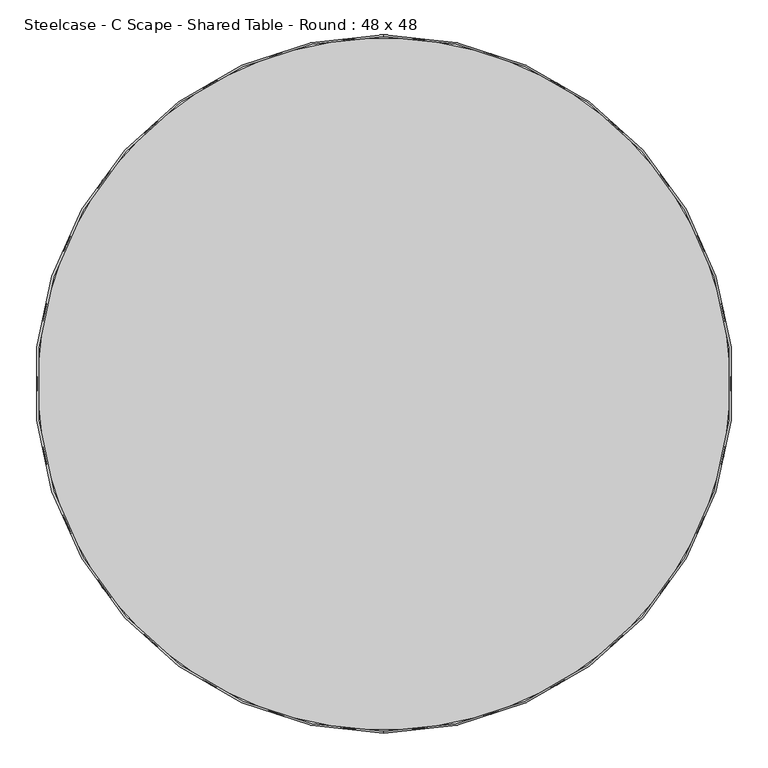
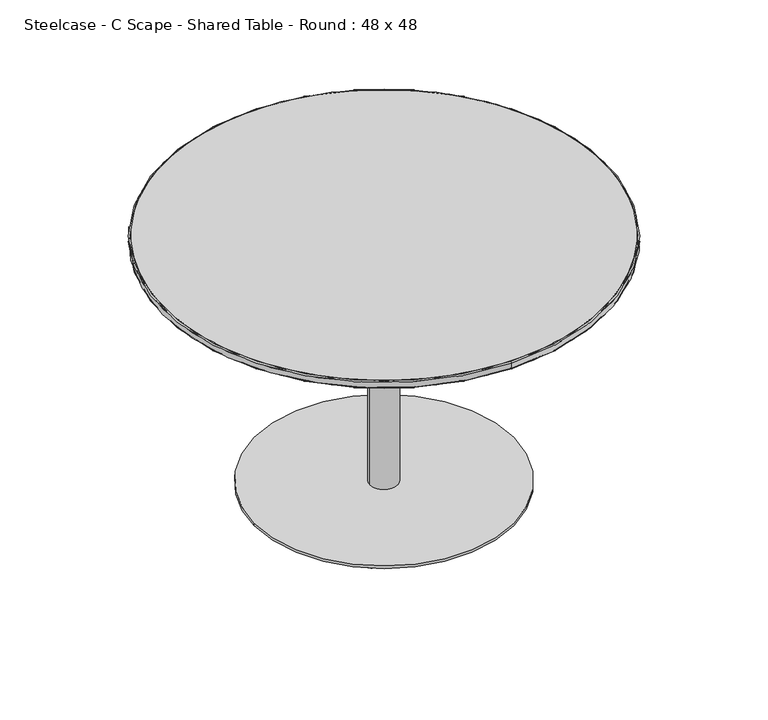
"""IFC4 building model written with IfcOpenShell, lengths in millimetres: furniture geometry, Steelcase - C Scape - Shared Table - Round : 48 x 48."""

from ifc_helpers import new_model, si_unit, point, frame, frame_2d, origin, origin_with_axes, place, context, project, spatial, polyline, circle_curve, ellipse_curve, trimmed, segment, composite_curve, outline, extrude, source, transform, mapped, element, save
from ifc_brep_helpers import plane_surface, cylinder_surface, revolved_surface, advanced_brep


def steelcase_c_scape_shared_table_round_48_x_48_2e53c025(model_context):
    return source(origin(), model_context, "Body", "SolidModel", [
        extrude(outline(composite_curve([segment(trimmed(circle_curve(frame_2d((614.3169393, -282.5887078)), 19.05), [point((595.2669393, -282.5887078))], [point((633.3669393, -282.5887078))], False, "CARTESIAN"), True, "CONTINUOUS"), segment(trimmed(circle_curve(frame_2d((614.3169393, -282.5887078)), 19.05), [point((633.3669393, -282.5887078))], [point((595.2669393, -282.5887078))], False, "CARTESIAN"), True, "CONTINUOUS")], self_intersect=False)), origin_with_axes(), (0.0, 0.0, 1.0), 4.7752),
        extrude(outline(composite_curve([segment(trimmed(circle_curve(frame_2d((925.7274141, -508.1223889)), 19.05), [point((906.6774141, -508.1223889))], [point((944.7774141, -508.1223889))], False, "CARTESIAN"), True, "CONTINUOUS"), segment(trimmed(circle_curve(frame_2d((925.7274141, -508.1223889)), 19.05), [point((944.7774141, -508.1223889))], [point((906.6774141, -508.1223889))], False, "CARTESIAN"), True, "CONTINUOUS")], self_intersect=False)), origin_with_axes(), (0.0, 0.0, 1.0), 4.7752),
        extrude(outline(composite_curve([segment(trimmed(circle_curve(frame_2d((293.4725859, -508.1223889)), 19.05), [point((274.4225859, -508.1223889))], [point((312.5225859, -508.1223889))], False, "CARTESIAN"), True, "CONTINUOUS"), segment(trimmed(circle_curve(frame_2d((293.4725859, -508.1223889)), 19.05), [point((312.5225859, -508.1223889))], [point((274.4225859, -508.1223889))], False, "CARTESIAN"), True, "CONTINUOUS")], self_intersect=False)), origin_with_axes(), (0.0, 0.0, 1.0), 4.7752),
        extrude(outline(composite_curve([segment(trimmed(circle_curve(frame_2d((419.5814105, -877.5440092)), 19.05), [point((400.5314105, -877.5440092))], [point((438.6314105, -877.5440092))], False, "CARTESIAN"), True, "CONTINUOUS"), segment(trimmed(circle_curve(frame_2d((419.5814105, -877.5440092)), 19.05), [point((438.6314105, -877.5440092))], [point((400.5314105, -877.5440092))], False, "CARTESIAN"), True, "CONTINUOUS")], self_intersect=False)), origin_with_axes(), (0.0, 0.0, 1.0), 4.7752),
        extrude(outline(composite_curve([segment(trimmed(circle_curve(frame_2d((799.6185895, -877.5440092)), 19.05), [point((780.5685895, -877.5440092))], [point((818.6685895, -877.5440092))], False, "CARTESIAN"), True, "CONTINUOUS"), segment(trimmed(circle_curve(frame_2d((799.6185895, -877.5440092)), 19.05), [point((818.6685895, -877.5440092))], [point((780.5685895, -877.5440092))], False, "CARTESIAN"), True, "CONTINUOUS")], self_intersect=False)), origin_with_axes(), (0.0, 0.0, 1.0), 4.7752),
        extrude(outline(polyline([(519.4461817, -703.2451349), (519.4461817, -525.4450865), (697.2460848, -525.4450865), (697.2460848, -703.2451349), (519.4461817, -703.2451349)])), frame((0.0, 0.0, 686.0031853), z_axis=(0.0, 0.0, 1.0), x_axis=(1.0, 0.0, 0.0)), (0.0, 0.0, 1.0), 9.4488147),
        extrude(outline(composite_curve([segment(trimmed(circle_curve(frame_2d((608.80625, -609.6)), 38.1), [point((570.70625, -609.6))], [point((646.90625, -609.6))], False, "CARTESIAN"), True, "CONTINUOUS"), segment(trimmed(circle_curve(frame_2d((608.80625, -609.6)), 38.1), [point((646.90625, -609.6))], [point((570.70625, -609.6))], False, "CARTESIAN"), True, "CONTINUOUS")], self_intersect=False)), frame((0.0, 0.0, 12.7), z_axis=(0.0, 0.0, 1.0), x_axis=(1.0, 0.0, 0.0)), (0.0, 0.0, 1.0), 673.3031853),
        extrude(outline(composite_curve([segment(trimmed(circle_curve(frame_2d((609.6, -609.6)), 355.6), [point((254.0, -609.6))], [point((965.2, -609.6))], False, "CARTESIAN"), True, "CONTINUOUS"), segment(trimmed(circle_curve(frame_2d((609.6, -609.6)), 355.6), [point((965.2, -609.6))], [point((254.0, -609.6))], False, "CARTESIAN"), True, "CONTINUOUS")], self_intersect=False)), frame((0.0, 0.0, 4.7752), z_axis=(0.0, 0.0, 1.0), x_axis=(1.0, 0.0, 0.0)), (0.0, 0.0, 1.0), 7.9248),
        advanced_brep(
        [(609.6, -2.0827992, 705.9399771), (609.6, -1217.1172008, 705.9399771), (609.6, -1214.12, 703.453), (609.6, -5.08, 703.453), (609.6, -2.0827992, 720.9027992), (609.6, -1217.1172008, 720.9027992), (609.6, -5.08, 723.9), (609.6, -1214.12, 723.9)],
        [
            (0, 1, circle_curve(frame((609.6, -609.6, 705.9399771), z_axis=(0.0, 0.0, -1.0), x_axis=(0.0, -1.0, 0.0)), 607.5172008)),
            (1, 2, circle_curve(frame((609.6, -1214.5867951, 705.9399771), z_axis=(1.0, 0.0, 0.0), x_axis=(0.0, 1.0, 0.0)), 2.5304056)),
            (2, 3, circle_curve(frame((609.6, -609.6, 703.453), z_axis=(0.0, 0.0, 1.0), x_axis=(0.0, -1.0, 0.0)), 604.52)),
            (3, 0, circle_curve(frame((609.6, -4.6132049, 705.9399771), z_axis=(1.0, 0.0, 0.0), x_axis=(0.0, -1.0, 0.0)), 2.5304056)),
            (4, 5, circle_curve(frame((609.6, -609.6, 720.9027992), z_axis=(0.0, 0.0, -1.0), x_axis=(0.0, -1.0, 0.0)), 607.5172008)),
            (5, 1),
            (0, 4),
            (6, 7, circle_curve(frame((609.6, -609.6, 723.9), z_axis=(0.0, 0.0, -1.0), x_axis=(0.0, -1.0, 0.0)), 604.52)),
            (7, 5, circle_curve(frame((609.6, -1214.12, 720.9027992), z_axis=(1.0, 0.0, 0.0), x_axis=(0.0, 1.0, 0.0)), 2.9972008)),
            (4, 6, circle_curve(frame((609.6, -5.08, 720.9027992), z_axis=(1.0, 0.0, 0.0), x_axis=(0.0, -1.0, 0.0)), 2.9972008)),
            (2, 7),
            (6, 3),
            (1, 0, circle_curve(frame((609.6, -609.6, 705.9399771), z_axis=(0.0, 0.0, -1.0), x_axis=(0.0, 1.0, 0.0)), 607.5172008)),
            (3, 2, circle_curve(frame((609.6, -609.6, 703.453), z_axis=(0.0, 0.0, 1.0), x_axis=(0.0, 1.0, 0.0)), 604.52)),
            (5, 4, circle_curve(frame((609.6, -609.6, 720.9027992), z_axis=(0.0, 0.0, -1.0), x_axis=(0.0, 1.0, 0.0)), 607.5172008)),
            (7, 6, circle_curve(frame((609.6, -609.6, 723.9), z_axis=(0.0, 0.0, -1.0), x_axis=(0.0, 1.0, 0.0)), 604.52)),
        ],
        [
            revolved_surface(trimmed(ellipse_curve(frame((609.6, -1214.5867951, 705.9399771), z_axis=(-1.0, 0.0, 0.0), x_axis=(0.0, 1.0, 0.0)), 2.5304056, 2.5304056), [point((609.6, -1214.12, 703.453))], [point((609.6, -1217.1172008, 705.9399771))], True, "CARTESIAN"), (609.6, -609.6, 703.453), (0.0, 0.0, 1.0)),
            cylinder_surface(frame((609.6, -609.6, 703.453), z_axis=(0.0, 0.0, 1.0), x_axis=(0.0, -1.0, 0.0)), 607.5172008),
            revolved_surface(trimmed(ellipse_curve(frame((609.6, -1214.12, 720.9027992), z_axis=(-1.0, 0.0, 0.0), x_axis=(0.0, 1.0, 0.0)), 2.9972008, 2.9972008), [point((609.6, -1217.1172008, 720.9027992))], [point((609.6, -1214.12, 723.9))], True, "CARTESIAN"), (609.6, -609.6, 703.453), (0.0, 0.0, 1.0)),
            revolved_surface(polyline([(609.6, -1214.12, 723.9), (609.6, -1214.12, 703.453)]), (609.6, -609.6, 703.453), (0.0, 0.0, 1.0)),
            revolved_surface(trimmed(ellipse_curve(frame((609.6, -4.6132049, 705.9399771), z_axis=(1.0, 0.0, 0.0), x_axis=(0.0, -1.0, 0.0)), 2.5304056, 2.5304056), [point((609.6, -5.08, 703.453))], [point((609.6, -2.0827992, 705.9399771))], True, "CARTESIAN"), (609.6, -609.6, 703.453), (0.0, 0.0, 1.0)),
            cylinder_surface(frame((609.6, -609.6, 703.453), z_axis=(0.0, 0.0, 1.0), x_axis=(0.0, 1.0, 0.0)), 607.5172008),
            revolved_surface(trimmed(ellipse_curve(frame((609.6, -5.08, 720.9027992), z_axis=(1.0, 0.0, 0.0), x_axis=(0.0, -1.0, 0.0)), 2.9972008, 2.9972008), [point((609.6, -2.0827992, 720.9027992))], [point((609.6, -5.08, 723.9))], True, "CARTESIAN"), (609.6, -609.6, 703.453), (0.0, 0.0, 1.0)),
            revolved_surface(polyline([(609.6, -5.080000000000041, 723.9), (609.6, -5.080000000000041, 703.453)]), (609.6, -609.6, 703.453), (0.0, 0.0, 1.0)),
        ],
        [
            (0, [[1, 2, 3, 4]]),
            (1, [[5, 6, -1, 7]]),
            (2, [[8, 9, -5, 10]]),
            (3, [[-3, 11, -8, 12]]),
            (4, [[13, -4, 14, -2]]),
            (5, [[15, -7, -13, -6]]),
            (6, [[16, -10, -15, -9]]),
            (7, [[-14, -12, -16, -11]]),
        ],
    ),
        extrude(outline(composite_curve([segment(trimmed(circle_curve(frame_2d((609.6, -609.6)), 604.52), [point((5.08, -609.6))], [point((1214.12, -609.6))], False, "CARTESIAN"), True, "CONTINUOUS"), segment(trimmed(circle_curve(frame_2d((609.6, -609.6)), 604.52), [point((1214.12, -609.6))], [point((5.08, -609.6))], False, "CARTESIAN"), True, "CONTINUOUS")], self_intersect=False)), frame((0.0, 0.0, 703.453), z_axis=(0.0, 0.0, 1.0), x_axis=(1.0, 0.0, 0.0)), (0.0, 0.0, 1.0), 20.447),
        advanced_brep(
        [(5.08, -609.6, 703.453), (1214.12, -609.6, 703.453), (52.832, -609.6, 693.928), (1166.368, -609.6, 693.928)],
        [
            (0, 1, circle_curve(frame((609.6, -609.6, 703.453), z_axis=(0.0, 0.0, 1.0), x_axis=(-1.0, 0.0, 0.0)), 604.52)),
            (1, 0, circle_curve(frame((609.6, -609.6, 703.453), z_axis=(0.0, 0.0, 1.0), x_axis=(1.0, 0.0, 0.0)), 604.52)),
            (2, 3, circle_curve(frame((609.6, -609.6, 693.928), z_axis=(0.0, 0.0, -1.0), x_axis=(1.0, 0.0, 0.0)), 556.768)),
            (3, 2, circle_curve(frame((609.6, -609.6, 693.928), z_axis=(0.0, 0.0, -1.0), x_axis=(-1.0, 0.0, 0.0)), 556.768)),
            (3, 1),
            (0, 2),
        ],
        [
            plane_surface(frame((609.6, -609.6, 703.453), z_axis=(0.0, 0.0, 1.0), x_axis=(0.0, -1.0, 0.0))),
            plane_surface(frame((609.6, -609.6, 693.928), z_axis=(0.0, 0.0, -1.0), x_axis=(0.0, -1.0, 0.0))),
            revolved_surface(polyline([(1166.3679999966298, -609.6, 693.928), (1214.12, -609.6, 703.453)]), (609.6, -609.6, 582.8705532), (0.0, 0.0, 1.0)),
            revolved_surface(polyline([(52.83200000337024, -609.6, 693.928), (5.080000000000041, -609.6, 703.453)]), (609.6, -609.6, 582.8705532), (0.0, 0.0, 1.0)),
        ],
        [
            (0, [[1, 2]]),
            (1, [[3, 4]]),
            (2, [[-4, 5, -1, 6]]),
            (3, [[-3, -6, -2, -5]]),
        ],
    ),
    ])


if __name__ == "__main__":
    model = new_model("IFC4")
    model_context = context("Model", 3, world=origin())
    ifc_project = project(units=[si_unit("LENGTHUNIT", "METRE", prefix="MILLI")], contexts=[model_context])
    site = spatial("IfcSite", under=ifc_project)
    building = spatial("IfcBuilding", under=site)
    placement = place(None, origin())
    steelcase_c_scape_shared_table_round_48_x_48_shape = steelcase_c_scape_shared_table_round_48_x_48_2e53c025(model_context)
    element("IfcFurniture", 1, ObjectType="Steelcase - C Scape - Shared Table - Round : 48 x 48", at=placement, inside=building, context=model_context, shape_type="MappedRepresentation", body=[
        mapped(steelcase_c_scape_shared_table_round_48_x_48_shape, transform((0.0, 0.0, 0.0), x_axis=(1.0, 0.0, 0.0), y_axis=(0.0, 1.0, 0.0), z_axis=(0.0, 0.0, 1.0))),
    ])
    save(model, "model.ifc")
